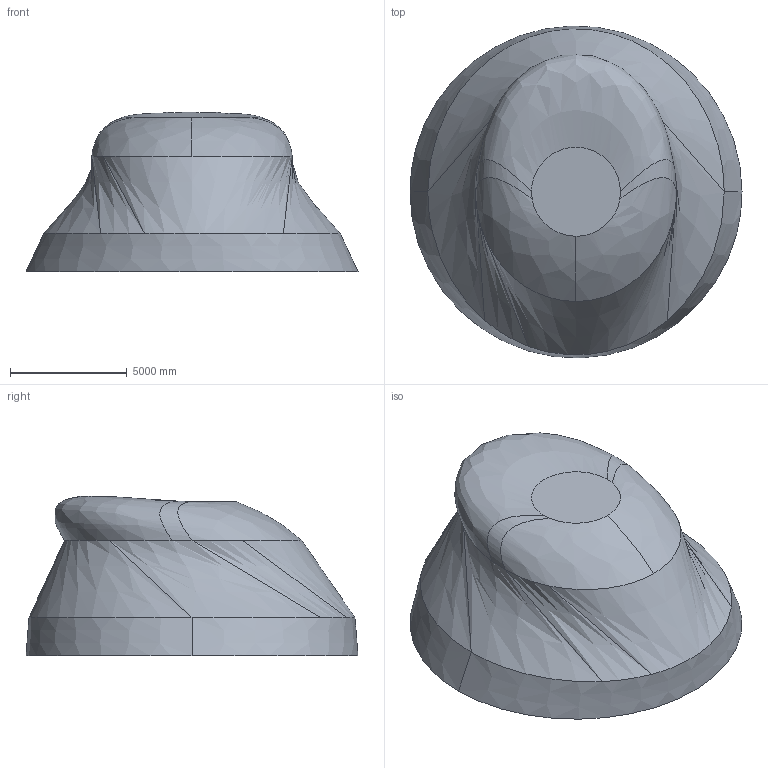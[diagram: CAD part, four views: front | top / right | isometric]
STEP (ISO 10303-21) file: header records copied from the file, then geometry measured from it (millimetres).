
FILE_DESCRIPTION((''),'2;1');
FILE_NAME('KAMMER_V1_ANPRESS_EINZEL','2006-07-24T',('muellers'),(''),'PRO/ENGINEER BY PARAMETRIC TECHNOLOGY CORPORATION, 2006010','PRO/ENGINEER BY PARAMETRIC TECHNOLOGY CORPORATION, 2006010','');
FILE_SCHEMA(('CONFIG_CONTROL_DESIGN'));
Length unit declared in the file: inch
Products named in the file (1): KAMMER_V1_ANPRESS_EINZEL
Bounding box: 14224 x 14216.52 x 6854.78 mm (x, y, z)
Surface area: 470372652.8 mm2 (no closed solid volume)
Topology: 0 solids, 1 shells, 14 faces, 36 edges, 24 vertices
Faces by surface type: bspline 12, plane 2
Entity records: 1059 total; most frequent: CARTESIAN_POINT 767, ORIENTED_EDGE 72, EDGE_CURVE 36, B_SPLINE_CURVE_WITH_KNOTS 29, VERTEX_POINT 24, EDGE_LOOP 14, FACE_OUTER_BOUND 14, ADVANCED_FACE 14
